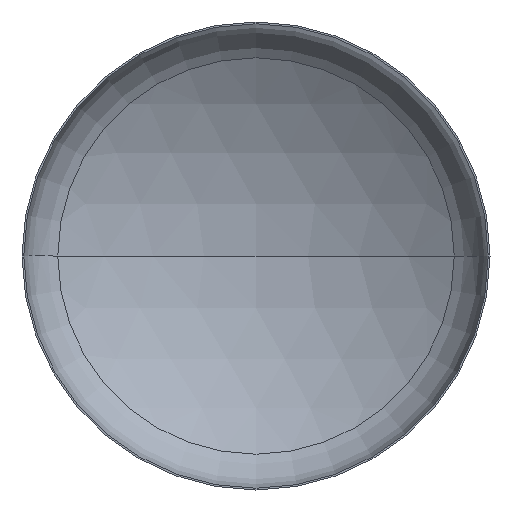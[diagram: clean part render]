
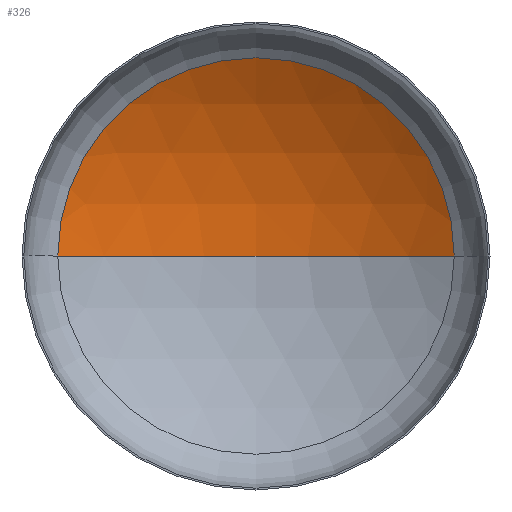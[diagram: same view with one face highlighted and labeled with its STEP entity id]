
A CAD part, front view. The second image highlights one B-rep face of the part: STEP entity #326.
In plain terms, the highlighted spherical face has radius 2720 mm.
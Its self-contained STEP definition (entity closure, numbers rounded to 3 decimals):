
#4 = SPHERICAL_SURFACE ( 'NONE', #6, 2720. ) ;
#6 = AXIS2_PLACEMENT_3D ( 'NONE', #57, #152, #191 ) ;
#9 = ORIENTED_EDGE ( 'NONE', *, *, #146, .T. ) ;
#19 = EDGE_LOOP ( 'NONE', ( #74, #62, #9 ) ) ;
#20 = VERTEX_POINT ( 'NONE', #244 ) ;
#24 = VERTEX_POINT ( 'NONE', #242 ) ;
#51 = AXIS2_PLACEMENT_3D ( 'NONE', #219, #255, #254 ) ;
#53 = AXIS2_PLACEMENT_3D ( 'NONE', #190, #205, #208 ) ;
#56 = VERTEX_POINT ( 'NONE', #234 ) ;
#57 = CARTESIAN_POINT ( 'NONE',  ( 0., -1822.198, 0. ) ) ;
#59 = AXIS2_PLACEMENT_3D ( 'NONE', #267, #216, #358 ) ;
#62 = ORIENTED_EDGE ( 'NONE', *, *, #149, .T. ) ;
#74 = ORIENTED_EDGE ( 'NONE', *, *, #154, .F. ) ;
#75 = CIRCLE ( 'NONE', #53, 2720. ) ;
#146 = EDGE_CURVE ( 'NONE', #24, #20, #187, .T. ) ;
#149 = EDGE_CURVE ( 'NONE', #56, #24, #75, .T. ) ;
#152 = DIRECTION ( 'NONE',  ( 0., 0., -1. ) ) ;
#154 = EDGE_CURVE ( 'NONE', #56, #20, #369, .T. ) ;
#161 = FACE_OUTER_BOUND ( 'NONE', #19, .T. ) ;
#187 = CIRCLE ( 'NONE', #59, 1439.927 ) ;
#190 = CARTESIAN_POINT ( 'NONE',  ( 0., -1822.198, 0. ) ) ;
#191 = DIRECTION ( 'NONE',  ( -1., 0., 0. ) ) ;
#205 = DIRECTION ( 'NONE',  ( 0., 0., -1. ) ) ;
#208 = DIRECTION ( 'NONE',  ( -1., 0., 0. ) ) ;
#216 = DIRECTION ( 'NONE',  ( 0., -1., 0. ) ) ;
#219 = CARTESIAN_POINT ( 'NONE',  ( 0., -1822.198, 0. ) ) ;
#234 = CARTESIAN_POINT ( 'NONE',  ( 0., 897.802, 0. ) ) ;
#242 = CARTESIAN_POINT ( 'NONE',  ( 1439.927, 485.4, 0. ) ) ;
#244 = CARTESIAN_POINT ( 'NONE',  ( -1439.927, 485.4, 0. ) ) ;
#254 = DIRECTION ( 'NONE',  ( 1., 0., 0. ) ) ;
#255 = DIRECTION ( 'NONE',  ( 0., 0., 1. ) ) ;
#267 = CARTESIAN_POINT ( 'NONE',  ( 0., 485.4, 0. ) ) ;
#326 = ADVANCED_FACE ( 'NONE', ( #161 ), #4, .F. ) ;
#358 = DIRECTION ( 'NONE',  ( 1., 0., 0. ) ) ;
#369 = CIRCLE ( 'NONE', #51, 2720. ) ;
